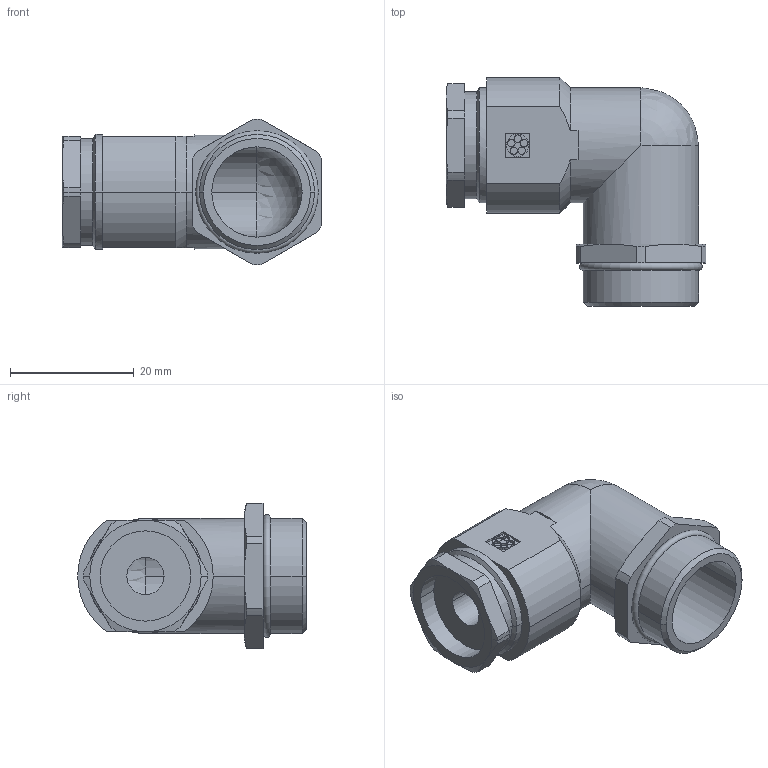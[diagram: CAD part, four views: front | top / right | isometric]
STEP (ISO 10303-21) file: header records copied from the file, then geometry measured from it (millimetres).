
FILE_DESCRIPTION((''),'2;1');
FILE_NAME('PG11-Winkelverschraubung.stp','Thu Nov 02 13:19:47 2006\N\',(''),(''),'','','');
FILE_SCHEMA(('AUTOMOTIVE_DESIGN_CC1'));
Length unit declared in the file: millimetre
Products named in the file (1): PRODUCT_ID_1
Bounding box: 42 x 36.95 x 23.5 mm (x, y, z)
Volume: 7898 mm3; surface area: 6771.6 mm2
Topology: 1 solids, 1 shells, 119 faces, 307 edges, 193 vertices
Faces by surface type: cylinder 51, plane 43, cone 22, sphere 2, torus 1
Entity records: 3020 total; most frequent: ORIENTED_EDGE 604, CARTESIAN_POINT 540, DIRECTION 385, EDGE_CURVE 302, VERTEX_POINT 193, VECTOR 141, LINE 141, EDGE_LOOP 129
